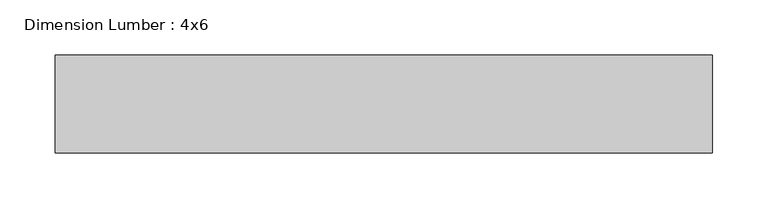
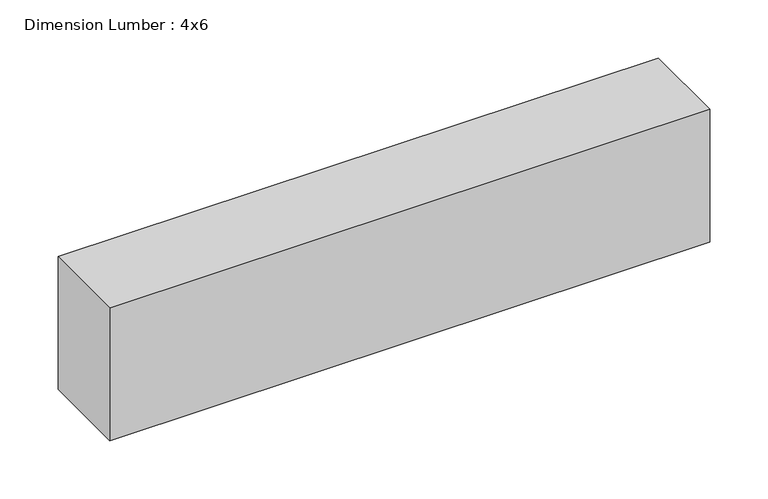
"""IFC4 building model written with IfcOpenShell, lengths in millimetres: beam geometry, Dimension Lumber : 4x6."""

from ifc_helpers import new_model, si_unit, frame, origin, place, context, project, spatial, polyline, outline, extrude, source, transform, mapped, element, save


def dimension_lumber_4x6_a3d246c2(model_context):
    return source(origin(), model_context, "Body", "SweptSolid", [
        extrude(outline(polyline([(298.4499994, 44.45), (298.4499994, -44.45), (-298.4499994, -44.45), (-298.4499994, 44.45), (298.4499994, 44.45)])), frame((0.0, 0.0, -69.85), z_axis=(0.0, 0.0, 1.0), x_axis=(1.0, 0.0, 0.0)), (0.0, 0.0, 1.0), 139.7),
    ])


if __name__ == "__main__":
    model = new_model("IFC4")
    model_context = context("Model", 3, world=origin())
    ifc_project = project(units=[si_unit("LENGTHUNIT", "METRE", prefix="MILLI")], contexts=[model_context])
    site = spatial("IfcSite", under=ifc_project)
    building = spatial("IfcBuilding", under=site)
    placement = place(None, origin())
    dimension_lumber_4x6_shape = dimension_lumber_4x6_a3d246c2(model_context)
    element("IfcBeam", 1, ObjectType="Dimension Lumber : 4x6", at=placement, inside=building, context=model_context, shape_type="MappedRepresentation", body=[
        mapped(dimension_lumber_4x6_shape, transform((0.0, 0.0, 0.0), x_axis=(1.0, 0.0, 0.0), y_axis=(0.0, 1.0, 0.0), z_axis=(0.0, 0.0, 1.0))),
    ])
    save(model, "model.ifc")
